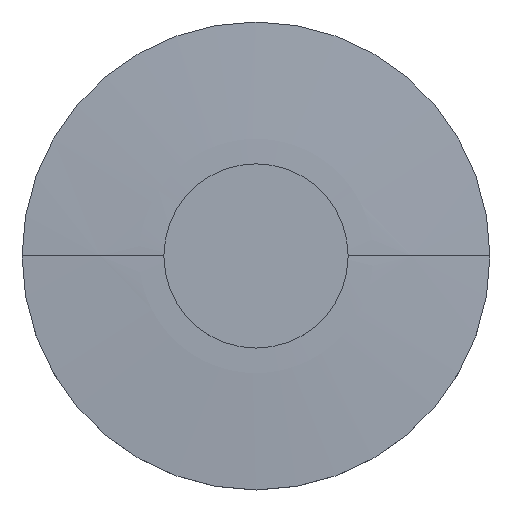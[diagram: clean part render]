
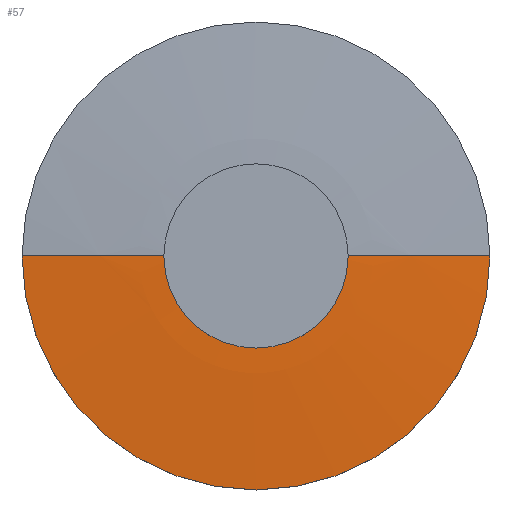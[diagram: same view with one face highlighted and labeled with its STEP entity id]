
A CAD part, top view. The second image highlights one B-rep face of the part: STEP entity #57.
In plain terms, the highlighted spherical face has radius 353.357 mm.
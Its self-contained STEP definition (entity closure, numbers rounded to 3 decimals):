
#57=ADVANCED_FACE('',(#71),#72,.T.);
#71=FACE_OUTER_BOUND('',#91,.T.);
#72=SPHERICAL_SURFACE('',#92,353.357);
#91=EDGE_LOOP('',(#124,#125,#126));
#92=AXIS2_PLACEMENT_3D('',#127,#128,#129);
#124=ORIENTED_EDGE('',*,*,#173,.T.);
#125=ORIENTED_EDGE('',*,*,#174,.T.);
#126=ORIENTED_EDGE('',*,*,#175,.T.);
#127=CARTESIAN_POINT('',(0.0,0.0,-344.357));
#128=DIRECTION('',(0.0,0.0,1.0));
#129=DIRECTION('',(1.0,0.0,0.0));
#173=EDGE_CURVE('',#189,#194,#195,.T.);
#174=EDGE_CURVE('',#194,#191,#196,.T.);
#175=EDGE_CURVE('',#191,#189,#197,.T.);
#189=VERTEX_POINT('',#215);
#191=VERTEX_POINT('',#218);
#194=VERTEX_POINT('',#222);
#195=CIRCLE('',#223,353.357);
#196=CIRCLE('',#224,353.357);
#197=CIRCLE('',#225,25.4);
#215=CARTESIAN_POINT('',(25.4,0.,8.086));
#218=CARTESIAN_POINT('',(-25.4,0.,8.086));
#222=CARTESIAN_POINT('',(0.0,0.0,9.0));
#223=AXIS2_PLACEMENT_3D('',#253,#254,#255);
#224=AXIS2_PLACEMENT_3D('',#256,#257,#258);
#225=AXIS2_PLACEMENT_3D('',#259,#260,#261);
#253=CARTESIAN_POINT('',(0.0,0.0,-344.357));
#254=DIRECTION('',(0.,-1.0,0.0));
#255=DIRECTION('',(0.0,0.0,1.0));
#256=CARTESIAN_POINT('',(0.0,0.0,-344.357));
#257=DIRECTION('',(0.,-1.0,0.0));
#258=DIRECTION('',(0.0,0.0,1.0));
#259=CARTESIAN_POINT('',(0.0,0.0,8.086));
#260=DIRECTION('',(0.0,0.0,1.0));
#261=DIRECTION('',(1.0,0.0,0.0));
